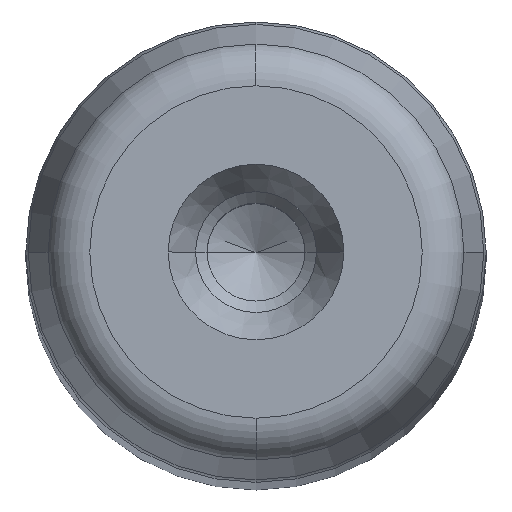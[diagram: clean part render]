
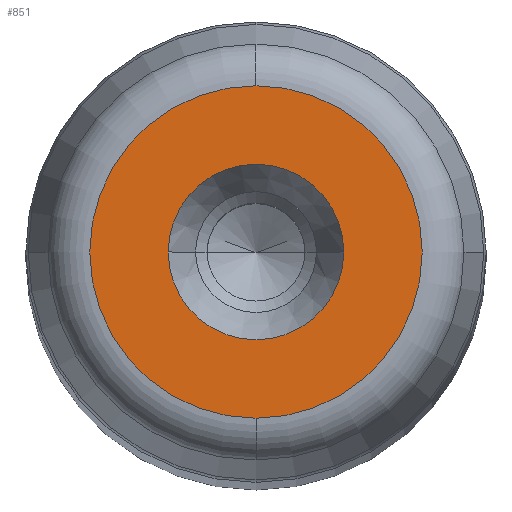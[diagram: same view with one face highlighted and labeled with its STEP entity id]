
A CAD part, top view. The second image highlights one B-rep face of the part: STEP entity #851.
In plain terms, the highlighted planar face has unit normal (0, 0, 1) as drawn and (0, 1, 0) by its records, which use the part's own axes.
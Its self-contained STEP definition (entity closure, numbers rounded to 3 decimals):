
#281=CARTESIAN_POINT('',(6.1,315.0,0.0));
#282=VERTEX_POINT('',#281);
#289=CARTESIAN_POINT('',(-6.1,315.0,0.));
#290=VERTEX_POINT('',#289);
#291=CARTESIAN_POINT('',(0.0,315.0,0.0));
#292=DIRECTION('',(0.0,1.0,0.0));
#293=DIRECTION('',(1.0,0.0,0.0));
#294=AXIS2_PLACEMENT_3D('',#291,#292,#293);
#295=CIRCLE('',#294,6.1);
#296=EDGE_CURVE('',#282,#290,#295,.T.);
#313=CARTESIAN_POINT('',(0.0,315.0,11.554));
#314=VERTEX_POINT('',#313);
#324=CARTESIAN_POINT('',(0.,315.0,-11.554));
#325=VERTEX_POINT('',#324);
#326=CARTESIAN_POINT('',(0.0,315.0,0.0));
#327=DIRECTION('',(0.0,1.0,0.0));
#328=DIRECTION('',(1.0,0.0,0.0));
#329=AXIS2_PLACEMENT_3D('',#326,#327,#328);
#330=CIRCLE('',#329,11.554);
#331=EDGE_CURVE('',#325,#314,#330,.T.);
#812=CARTESIAN_POINT('',(11.554,315.0,0.0));
#813=VERTEX_POINT('',#812);
#814=CARTESIAN_POINT('',(0.0,315.0,0.0));
#815=DIRECTION('',(0.0,1.0,0.0));
#816=DIRECTION('',(1.0,0.0,0.0));
#817=AXIS2_PLACEMENT_3D('',#814,#815,#816);
#818=CIRCLE('',#817,11.554);
#819=EDGE_CURVE('',#813,#325,#818,.T.);
#821=CARTESIAN_POINT('',(0.0,315.0,0.0));
#822=DIRECTION('',(0.0,1.0,0.0));
#823=DIRECTION('',(1.0,0.0,0.0));
#824=AXIS2_PLACEMENT_3D('',#821,#822,#823);
#825=CIRCLE('',#824,11.554);
#826=EDGE_CURVE('',#314,#813,#825,.T.);
#831=CARTESIAN_POINT('',(-12.71,315.0,-12.71));
#832=DIRECTION('',(0.0,1.0,0.0));
#833=DIRECTION('',(0.0,0.0,1.0));
#834=AXIS2_PLACEMENT_3D('',#831,#832,#833);
#835=PLANE('',#834);
#836=ORIENTED_EDGE('',*,*,#819,.T.);
#837=ORIENTED_EDGE('',*,*,#331,.T.);
#838=ORIENTED_EDGE('',*,*,#826,.T.);
#839=EDGE_LOOP('',(#836,#837,#838));
#840=FACE_OUTER_BOUND('',#839,.T.);
#841=ORIENTED_EDGE('',*,*,#296,.F.);
#842=CARTESIAN_POINT('',(0.0,315.0,0.0));
#843=DIRECTION('',(0.0,1.0,0.0));
#844=DIRECTION('',(1.0,0.0,0.0));
#845=AXIS2_PLACEMENT_3D('',#842,#843,#844);
#846=CIRCLE('',#845,6.1);
#847=EDGE_CURVE('',#290,#282,#846,.T.);
#848=ORIENTED_EDGE('',*,*,#847,.F.);
#849=EDGE_LOOP('',(#841,#848));
#850=FACE_BOUND('',#849,.T.);
#851=ADVANCED_FACE('',(#840,#850),#835,.T.);
